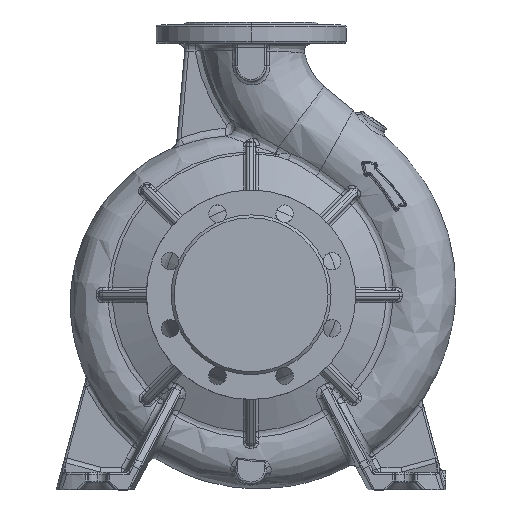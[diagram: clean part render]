
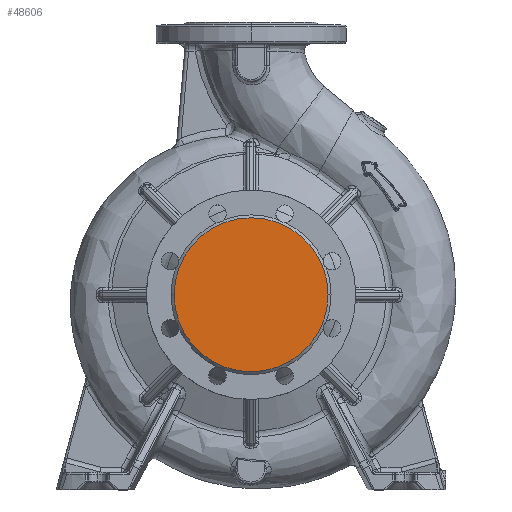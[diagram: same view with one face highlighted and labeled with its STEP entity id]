
A CAD part, top view. The second image highlights one B-rep face of the part: STEP entity #48606.
In plain terms, the highlighted planar face has unit normal (0, 0, 1).
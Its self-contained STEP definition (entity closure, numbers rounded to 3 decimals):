
#923 = CARTESIAN_POINT ( 'NONE',  ( 79., 0., 125. ) ) ;
#2830 = EDGE_CURVE ( 'NONE', #63988, #16394, #45274, .T. ) ;
#6464 = AXIS2_PLACEMENT_3D ( 'NONE', #29515, #68079, #62909 ) ;
#14084 = DIRECTION ( 'NONE',  ( 1., 0., 0. ) ) ;
#16394 = VERTEX_POINT ( 'NONE', #22574 ) ;
#17037 = CIRCLE ( 'NONE', #72699, 79. ) ;
#22574 = CARTESIAN_POINT ( 'NONE',  ( -79., 0., 125. ) ) ;
#24158 = CARTESIAN_POINT ( 'NONE',  ( 0., 0., 125. ) ) ;
#29515 = CARTESIAN_POINT ( 'NONE',  ( 0., 79., 125. ) ) ;
#29791 = ORIENTED_EDGE ( 'NONE', *, *, #2830, .T. ) ;
#29867 = DIRECTION ( 'NONE',  ( 0., 0., 1. ) ) ;
#38593 = FACE_OUTER_BOUND ( 'NONE', #62436, .T. ) ;
#39911 = PLANE ( 'NONE',  #6464 ) ;
#45274 = CIRCLE ( 'NONE', #52459, 79. ) ;
#46406 = DIRECTION ( 'NONE',  ( 1., 0., 0. ) ) ;
#47966 = DIRECTION ( 'NONE',  ( 0., 0., 1. ) ) ;
#48606 = ADVANCED_FACE ( 'NONE', ( #38593 ), #39911, .T. ) ;
#52459 = AXIS2_PLACEMENT_3D ( 'NONE', #24158, #29867, #46406 ) ;
#55083 = ORIENTED_EDGE ( 'NONE', *, *, #66176, .T. ) ;
#62436 = EDGE_LOOP ( 'NONE', ( #55083, #29791 ) ) ;
#62909 = DIRECTION ( 'NONE',  ( 1., 0., 0. ) ) ;
#63988 = VERTEX_POINT ( 'NONE', #923 ) ;
#66176 = EDGE_CURVE ( 'NONE', #16394, #63988, #17037, .T. ) ;
#68079 = DIRECTION ( 'NONE',  ( 0., 0., 1. ) ) ;
#69976 = CARTESIAN_POINT ( 'NONE',  ( 0., 0., 125. ) ) ;
#72699 = AXIS2_PLACEMENT_3D ( 'NONE', #69976, #47966, #14084 ) ;
